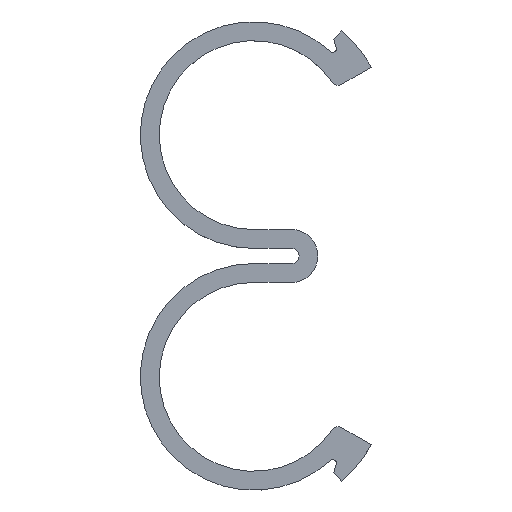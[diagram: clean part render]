
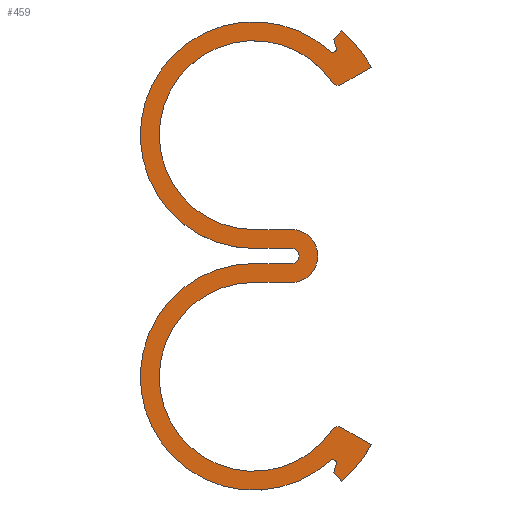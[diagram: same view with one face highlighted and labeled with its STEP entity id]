
A CAD part, top view. The second image highlights one B-rep face of the part: STEP entity #459.
In plain terms, the highlighted planar face has unit normal (0, 0, 1).
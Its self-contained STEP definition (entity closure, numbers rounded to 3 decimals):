
#25=PLANE('',#530);
#49=FACE_OUTER_BOUND('',#73,.T.);
#73=EDGE_LOOP('',(#381,#382,#383,#384,#385,#386,#387,#388,#389,#390,#391,
#392,#393,#394,#395,#396,#397,#398,#399,#400,#401,#402));
#79=LINE('',#692,#121);
#83=LINE('',#704,#125);
#88=LINE('',#722,#130);
#91=LINE('',#728,#133);
#95=LINE('',#740,#137);
#100=LINE('',#758,#142);
#104=LINE('',#770,#146);
#109=LINE('',#788,#151);
#113=LINE('',#800,#155);
#116=LINE('',#804,#158);
#121=VECTOR('',#552,10.);
#125=VECTOR('',#564,10.);
#130=VECTOR('',#583,10.);
#133=VECTOR('',#588,10.);
#137=VECTOR('',#600,10.);
#142=VECTOR('',#619,10.);
#146=VECTOR('',#631,10.);
#151=VECTOR('',#650,10.);
#155=VECTOR('',#662,10.);
#158=VECTOR('',#667,10.);
#160=CIRCLE('',#486,0.5);
#162=CIRCLE('',#489,15.);
#164=CIRCLE('',#493,1.);
#166=CIRCLE('',#497,15.);
#168=CIRCLE('',#500,0.5);
#170=CIRCLE('',#505,18.);
#172=CIRCLE('',#509,1.);
#174=CIRCLE('',#512,12.5);
#176=CIRCLE('',#516,3.5);
#178=CIRCLE('',#520,12.5);
#180=CIRCLE('',#523,1.);
#182=CIRCLE('',#527,18.);
#185=VERTEX_POINT('',#677);
#186=VERTEX_POINT('',#679);
#188=VERTEX_POINT('',#685);
#190=VERTEX_POINT('',#691);
#192=VERTEX_POINT('',#697);
#194=VERTEX_POINT('',#703);
#196=VERTEX_POINT('',#709);
#198=VERTEX_POINT('',#715);
#200=VERTEX_POINT('',#721);
#202=VERTEX_POINT('',#727);
#204=VERTEX_POINT('',#733);
#206=VERTEX_POINT('',#739);
#208=VERTEX_POINT('',#745);
#210=VERTEX_POINT('',#751);
#212=VERTEX_POINT('',#757);
#214=VERTEX_POINT('',#763);
#216=VERTEX_POINT('',#769);
#218=VERTEX_POINT('',#775);
#220=VERTEX_POINT('',#781);
#222=VERTEX_POINT('',#787);
#224=VERTEX_POINT('',#793);
#226=VERTEX_POINT('',#799);
#229=EDGE_CURVE('',#186,#185,#160,.T.);
#232=EDGE_CURVE('',#188,#186,#162,.T.);
#235=EDGE_CURVE('',#190,#188,#79,.T.);
#238=EDGE_CURVE('',#192,#190,#164,.T.);
#241=EDGE_CURVE('',#194,#192,#83,.T.);
#244=EDGE_CURVE('',#196,#194,#166,.T.);
#247=EDGE_CURVE('',#198,#196,#168,.T.);
#250=EDGE_CURVE('',#200,#198,#88,.T.);
#253=EDGE_CURVE('',#202,#200,#91,.T.);
#256=EDGE_CURVE('',#204,#202,#170,.T.);
#259=EDGE_CURVE('',#206,#204,#95,.T.);
#262=EDGE_CURVE('',#208,#206,#172,.T.);
#265=EDGE_CURVE('',#210,#208,#174,.T.);
#268=EDGE_CURVE('',#212,#210,#100,.T.);
#271=EDGE_CURVE('',#214,#212,#176,.T.);
#274=EDGE_CURVE('',#216,#214,#104,.T.);
#277=EDGE_CURVE('',#218,#216,#178,.T.);
#280=EDGE_CURVE('',#220,#218,#180,.T.);
#283=EDGE_CURVE('',#222,#220,#109,.T.);
#286=EDGE_CURVE('',#224,#222,#182,.T.);
#289=EDGE_CURVE('',#226,#224,#113,.T.);
#292=EDGE_CURVE('',#185,#226,#116,.T.);
#381=ORIENTED_EDGE('',*,*,#292,.T.);
#382=ORIENTED_EDGE('',*,*,#289,.T.);
#383=ORIENTED_EDGE('',*,*,#286,.T.);
#384=ORIENTED_EDGE('',*,*,#283,.T.);
#385=ORIENTED_EDGE('',*,*,#280,.T.);
#386=ORIENTED_EDGE('',*,*,#277,.T.);
#387=ORIENTED_EDGE('',*,*,#274,.T.);
#388=ORIENTED_EDGE('',*,*,#271,.T.);
#389=ORIENTED_EDGE('',*,*,#268,.T.);
#390=ORIENTED_EDGE('',*,*,#265,.T.);
#391=ORIENTED_EDGE('',*,*,#262,.T.);
#392=ORIENTED_EDGE('',*,*,#259,.T.);
#393=ORIENTED_EDGE('',*,*,#256,.T.);
#394=ORIENTED_EDGE('',*,*,#253,.T.);
#395=ORIENTED_EDGE('',*,*,#250,.T.);
#396=ORIENTED_EDGE('',*,*,#247,.T.);
#397=ORIENTED_EDGE('',*,*,#244,.T.);
#398=ORIENTED_EDGE('',*,*,#241,.T.);
#399=ORIENTED_EDGE('',*,*,#238,.T.);
#400=ORIENTED_EDGE('',*,*,#235,.T.);
#401=ORIENTED_EDGE('',*,*,#232,.T.);
#402=ORIENTED_EDGE('',*,*,#229,.T.);
#459=ADVANCED_FACE('',(#49),#25,.T.);
#486=AXIS2_PLACEMENT_3D('',#680,#539,#540);
#489=AXIS2_PLACEMENT_3D('',#686,#546,#547);
#493=AXIS2_PLACEMENT_3D('',#698,#558,#559);
#497=AXIS2_PLACEMENT_3D('',#710,#570,#571);
#500=AXIS2_PLACEMENT_3D('',#716,#577,#578);
#505=AXIS2_PLACEMENT_3D('',#734,#594,#595);
#509=AXIS2_PLACEMENT_3D('',#746,#606,#607);
#512=AXIS2_PLACEMENT_3D('',#752,#613,#614);
#516=AXIS2_PLACEMENT_3D('',#764,#625,#626);
#520=AXIS2_PLACEMENT_3D('',#776,#637,#638);
#523=AXIS2_PLACEMENT_3D('',#782,#644,#645);
#527=AXIS2_PLACEMENT_3D('',#794,#656,#657);
#530=AXIS2_PLACEMENT_3D('',#805,#668,#669);
#539=DIRECTION('center_axis',(0.,0.,-1.));
#540=DIRECTION('ref_axis',(-0.955,0.296,0.));
#546=DIRECTION('center_axis',(0.,0.,1.));
#547=DIRECTION('ref_axis',(0.,1.,0.));
#552=DIRECTION('',(-1.,0.,0.));
#558=DIRECTION('center_axis',(0.,0.,-1.));
#559=DIRECTION('ref_axis',(0.,1.,0.));
#564=DIRECTION('',(1.,0.,0.));
#570=DIRECTION('center_axis',(0.,0.,1.));
#571=DIRECTION('ref_axis',(0.674,0.738,0.));
#577=DIRECTION('center_axis',(0.,0.,-1.));
#578=DIRECTION('ref_axis',(0.674,0.738,0.));
#583=DIRECTION('',(0.296,-0.955,0.));
#588=DIRECTION('',(-0.643,-0.766,0.));
#594=DIRECTION('center_axis',(0.,0.,1.));
#595=DIRECTION('ref_axis',(0.866,0.5,0.));
#600=DIRECTION('',(0.866,0.5,0.));
#606=DIRECTION('center_axis',(0.,0.,1.));
#607=DIRECTION('ref_axis',(-0.827,-0.563,0.));
#613=DIRECTION('center_axis',(0.,0.,-1.));
#614=DIRECTION('ref_axis',(-0.827,-0.563,0.));
#619=DIRECTION('',(-1.,0.,0.));
#625=DIRECTION('center_axis',(0.,0.,1.));
#626=DIRECTION('ref_axis',(0.,-1.,0.));
#631=DIRECTION('',(1.,0.,0.));
#637=DIRECTION('center_axis',(0.,0.,-1.));
#638=DIRECTION('ref_axis',(0.,-1.,0.));
#644=DIRECTION('center_axis',(0.,0.,1.));
#645=DIRECTION('ref_axis',(0.5,0.866,0.));
#650=DIRECTION('',(-0.866,0.5,0.));
#656=DIRECTION('center_axis',(0.,0.,1.));
#657=DIRECTION('ref_axis',(0.643,-0.766,0.));
#662=DIRECTION('',(0.643,-0.766,0.));
#667=DIRECTION('',(-0.296,-0.955,0.));
#668=DIRECTION('center_axis',(0.,0.,1.));
#669=DIRECTION('ref_axis',(1.,0.,0.));
#677=CARTESIAN_POINT('',(10.93,-11.594,2.));
#679=CARTESIAN_POINT('',(10.115,-11.077,2.));
#680=CARTESIAN_POINT('Origin',(10.452,-11.446,2.));
#685=CARTESIAN_POINT('',(0.,15.,2.));
#686=CARTESIAN_POINT('Origin',(0.,0.,2.));
#691=CARTESIAN_POINT('',(5.,15.,2.));
#692=CARTESIAN_POINT('',(5.,15.,2.));
#697=CARTESIAN_POINT('',(5.,17.,2.));
#698=CARTESIAN_POINT('Origin',(5.,16.,2.));
#703=CARTESIAN_POINT('',(0.,17.,2.));
#704=CARTESIAN_POINT('',(0.,17.,2.));
#709=CARTESIAN_POINT('',(10.115,43.077,2.));
#710=CARTESIAN_POINT('Origin',(0.,32.,2.));
#715=CARTESIAN_POINT('',(10.93,43.594,2.));
#716=CARTESIAN_POINT('Origin',(10.452,43.446,2.));
#721=CARTESIAN_POINT('',(10.606,44.64,2.));
#722=CARTESIAN_POINT('',(10.606,44.64,2.));
#727=CARTESIAN_POINT('',(11.57,45.789,2.));
#728=CARTESIAN_POINT('',(11.57,45.789,2.));
#733=CARTESIAN_POINT('',(15.588,41.,2.));
#734=CARTESIAN_POINT('Origin',(0.,32.,2.));
#739=CARTESIAN_POINT('',(11.659,38.731,2.));
#740=CARTESIAN_POINT('',(11.659,38.731,2.));
#745=CARTESIAN_POINT('',(10.333,39.035,2.));
#746=CARTESIAN_POINT('Origin',(11.159,39.597,2.));
#751=CARTESIAN_POINT('',(0.,19.5,2.));
#752=CARTESIAN_POINT('Origin',(0.,32.,2.));
#757=CARTESIAN_POINT('',(5.,19.5,2.));
#758=CARTESIAN_POINT('',(5.,19.5,2.));
#763=CARTESIAN_POINT('',(5.,12.5,2.));
#764=CARTESIAN_POINT('Origin',(5.,16.,2.));
#769=CARTESIAN_POINT('',(0.,12.5,2.));
#770=CARTESIAN_POINT('',(0.,12.5,2.));
#775=CARTESIAN_POINT('',(10.333,-7.035,2.));
#776=CARTESIAN_POINT('Origin',(0.,0.,2.));
#781=CARTESIAN_POINT('',(11.659,-6.731,2.));
#782=CARTESIAN_POINT('Origin',(11.159,-7.597,2.));
#787=CARTESIAN_POINT('',(15.588,-9.,2.));
#788=CARTESIAN_POINT('',(15.588,-9.,2.));
#793=CARTESIAN_POINT('',(11.57,-13.789,2.));
#794=CARTESIAN_POINT('Origin',(0.,0.,2.));
#799=CARTESIAN_POINT('',(10.606,-12.64,2.));
#800=CARTESIAN_POINT('',(10.264,-12.233,2.));
#804=CARTESIAN_POINT('',(10.93,-11.594,2.));
#805=CARTESIAN_POINT('Origin',(0.294,16.,2.));
